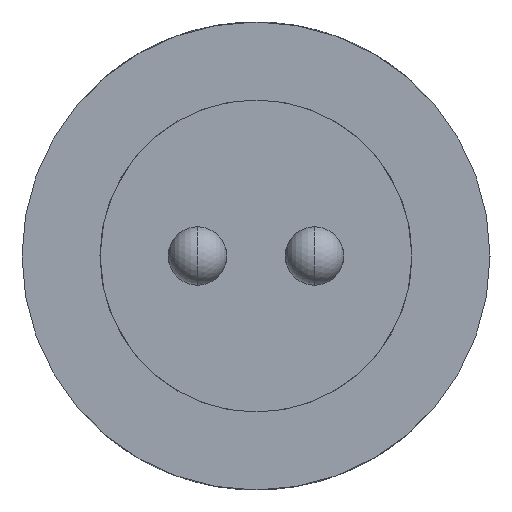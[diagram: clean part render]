
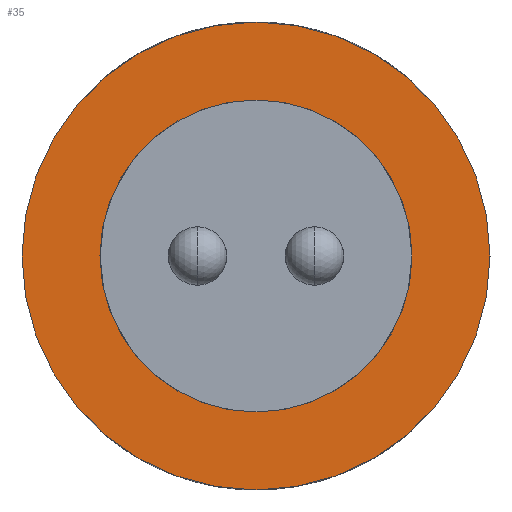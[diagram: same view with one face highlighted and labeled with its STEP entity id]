
A CAD part, left-side view. The second image highlights one B-rep face of the part: STEP entity #35.
In plain terms, the highlighted planar face has unit normal (-1, 0, 0).
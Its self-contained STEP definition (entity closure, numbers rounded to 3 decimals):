
#1 = DIRECTION ( 'NONE',  ( -1., 0., 0. ) ) ;
#23 = FACE_OUTER_BOUND ( 'NONE', #25, .T. ) ;
#25 = EDGE_LOOP ( 'NONE', ( #769, #378 ) ) ;
#30 = DIRECTION ( 'NONE',  ( 0., -1., 0. ) ) ;
#35 = ADVANCED_FACE ( 'NONE', ( #417, #23 ), #101, .F. ) ;
#41 = VERTEX_POINT ( 'NONE', #882 ) ;
#54 = CARTESIAN_POINT ( 'NONE',  ( 0., 4., 0. ) ) ;
#92 = EDGE_LOOP ( 'NONE', ( #725, #290 ) ) ;
#101 = PLANE ( 'NONE',  #921 ) ;
#107 = CARTESIAN_POINT ( 'NONE',  ( 0., 0., 0. ) ) ;
#140 = EDGE_CURVE ( 'NONE', #413, #517, #751, .T. ) ;
#191 = DIRECTION ( 'NONE',  ( 0., 1., 0. ) ) ;
#212 = DIRECTION ( 'NONE',  ( 0., -1., 0. ) ) ;
#225 = EDGE_CURVE ( 'NONE', #861, #41, #309, .T. ) ;
#234 = AXIS2_PLACEMENT_3D ( 'NONE', #548, #308, #30 ) ;
#290 = ORIENTED_EDGE ( 'NONE', *, *, #468, .F. ) ;
#295 = EDGE_CURVE ( 'NONE', #41, #861, #572, .T. ) ;
#308 = DIRECTION ( 'NONE',  ( -1., 0., 0. ) ) ;
#309 = CIRCLE ( 'NONE', #434, 6. ) ;
#365 = DIRECTION ( 'NONE',  ( 0., -1., 0. ) ) ;
#378 = ORIENTED_EDGE ( 'NONE', *, *, #225, .T. ) ;
#413 = VERTEX_POINT ( 'NONE', #607 ) ;
#417 = FACE_BOUND ( 'NONE', #92, .T. ) ;
#434 = AXIS2_PLACEMENT_3D ( 'NONE', #856, #708, #212 ) ;
#468 = EDGE_CURVE ( 'NONE', #517, #413, #647, .T. ) ;
#476 = CARTESIAN_POINT ( 'NONE',  ( 0., 6., 0. ) ) ;
#507 = CARTESIAN_POINT ( 'NONE',  ( 0., 0., 0. ) ) ;
#517 = VERTEX_POINT ( 'NONE', #54 ) ;
#548 = CARTESIAN_POINT ( 'NONE',  ( 0., 0., 0. ) ) ;
#556 = DIRECTION ( 'NONE',  ( 0., -1., 0. ) ) ;
#572 = CIRCLE ( 'NONE', #935, 6. ) ;
#605 = DIRECTION ( 'NONE',  ( -1., 0., 0. ) ) ;
#607 = CARTESIAN_POINT ( 'NONE',  ( 0., -4., 0. ) ) ;
#647 = CIRCLE ( 'NONE', #234, 4. ) ;
#694 = DIRECTION ( 'NONE',  ( 1., 0., 0. ) ) ;
#708 = DIRECTION ( 'NONE',  ( -1., 0., 0. ) ) ;
#725 = ORIENTED_EDGE ( 'NONE', *, *, #140, .F. ) ;
#751 = CIRCLE ( 'NONE', #864, 4. ) ;
#769 = ORIENTED_EDGE ( 'NONE', *, *, #295, .T. ) ;
#856 = CARTESIAN_POINT ( 'NONE',  ( 0., 0., 0. ) ) ;
#861 = VERTEX_POINT ( 'NONE', #476 ) ;
#864 = AXIS2_PLACEMENT_3D ( 'NONE', #107, #605, #556 ) ;
#882 = CARTESIAN_POINT ( 'NONE',  ( 0., -6., 0. ) ) ;
#896 = CARTESIAN_POINT ( 'NONE',  ( 0., 4., 0. ) ) ;
#921 = AXIS2_PLACEMENT_3D ( 'NONE', #896, #694, #191 ) ;
#935 = AXIS2_PLACEMENT_3D ( 'NONE', #507, #1, #365 ) ;
